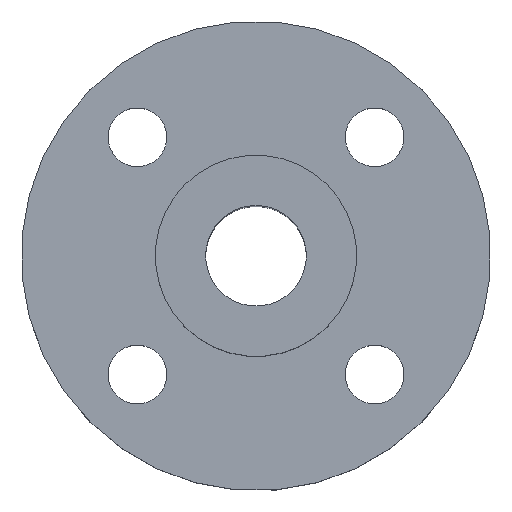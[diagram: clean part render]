
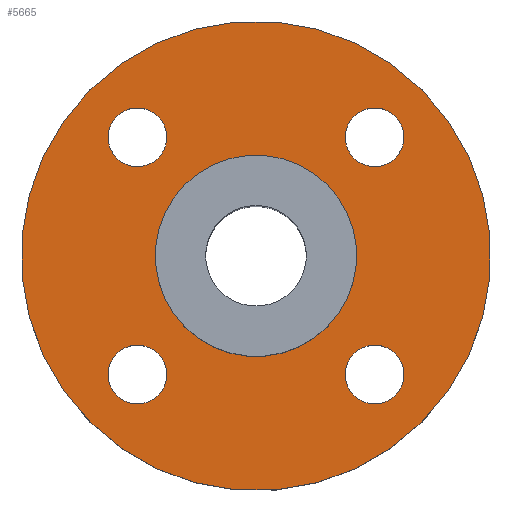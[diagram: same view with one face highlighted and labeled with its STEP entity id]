
A CAD part, top view. The second image highlights one B-rep face of the part: STEP entity #5665.
In plain terms, the highlighted planar face has unit normal (0, 0, 1).
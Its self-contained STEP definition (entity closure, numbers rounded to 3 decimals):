
#117=CIRCLE('',#6024,6.);
#121=CIRCLE('',#6032,14.);
#122=CIRCLE('',#6034,1.75);
#123=CIRCLE('',#6035,1.75);
#124=CIRCLE('',#6036,1.75);
#125=CIRCLE('',#6037,1.75);
#531=ORIENTED_EDGE('',*,*,#2159,.F.);
#532=ORIENTED_EDGE('',*,*,#2160,.F.);
#533=ORIENTED_EDGE('',*,*,#2161,.F.);
#534=ORIENTED_EDGE('',*,*,#2162,.F.);
#535=ORIENTED_EDGE('',*,*,#2154,.T.);
#536=ORIENTED_EDGE('',*,*,#2158,.T.);
#2154=EDGE_CURVE('',#2971,#2971,#117,.F.);
#2158=EDGE_CURVE('',#2975,#2975,#121,.T.);
#2159=EDGE_CURVE('',#2976,#2976,#122,.T.);
#2160=EDGE_CURVE('',#2977,#2977,#123,.T.);
#2161=EDGE_CURVE('',#2978,#2978,#124,.T.);
#2162=EDGE_CURVE('',#2979,#2979,#125,.T.);
#2971=VERTEX_POINT('',#8926);
#2975=VERTEX_POINT('',#8938);
#2976=VERTEX_POINT('',#8941);
#2977=VERTEX_POINT('',#8943);
#2978=VERTEX_POINT('',#8945);
#2979=VERTEX_POINT('',#8947);
#4643=EDGE_LOOP('',(#531));
#4644=EDGE_LOOP('',(#532));
#4645=EDGE_LOOP('',(#533));
#4646=EDGE_LOOP('',(#534));
#4647=EDGE_LOOP('',(#535));
#4648=EDGE_LOOP('',(#536));
#5054=FACE_BOUND('',#4643,.T.);
#5055=FACE_BOUND('',#4644,.T.);
#5056=FACE_BOUND('',#4645,.T.);
#5057=FACE_BOUND('',#4646,.T.);
#5058=FACE_BOUND('',#4647,.T.);
#5059=FACE_BOUND('',#4648,.T.);
#5408=PLANE('',#6033);
#5665=ADVANCED_FACE('',(#5054,#5055,#5056,#5057,#5058,#5059),#5408,.T.);
#6024=AXIS2_PLACEMENT_3D('',#8925,#6536,#6537);
#6032=AXIS2_PLACEMENT_3D('',#8937,#6552,#6553);
#6033=AXIS2_PLACEMENT_3D('',#8939,#6554,#6555);
#6034=AXIS2_PLACEMENT_3D('',#8940,#6556,#6557);
#6035=AXIS2_PLACEMENT_3D('',#8942,#6558,#6559);
#6036=AXIS2_PLACEMENT_3D('',#8944,#6560,#6561);
#6037=AXIS2_PLACEMENT_3D('',#8946,#6562,#6563);
#6536=DIRECTION('',(0.,0.,1.));
#6537=DIRECTION('',(0.707,-0.707,0.));
#6552=DIRECTION('',(0.,0.,1.));
#6553=DIRECTION('',(0.707,-0.707,0.));
#6554=DIRECTION('',(0.,0.,1.));
#6555=DIRECTION('',(0.707,-0.707,0.));
#6556=DIRECTION('',(0.,0.,1.));
#6557=DIRECTION('',(0.707,-0.707,0.));
#6558=DIRECTION('',(0.,0.,1.));
#6559=DIRECTION('',(0.707,-0.707,0.));
#6560=DIRECTION('',(0.,0.,1.));
#6561=DIRECTION('',(0.707,-0.707,0.));
#6562=DIRECTION('',(0.,0.,1.));
#6563=DIRECTION('',(0.707,-0.707,0.));
#8925=CARTESIAN_POINT('',(0.,0.,0.));
#8926=CARTESIAN_POINT('',(4.243,-4.243,0.));
#8937=CARTESIAN_POINT('',(0.,0.,0.));
#8938=CARTESIAN_POINT('',(9.899,-9.899,0.));
#8939=CARTESIAN_POINT('',(0.,0.,0.));
#8940=CARTESIAN_POINT('',(7.071,7.071,0.));
#8941=CARTESIAN_POINT('',(8.309,5.834,0.));
#8942=CARTESIAN_POINT('',(-7.071,7.071,0.));
#8943=CARTESIAN_POINT('',(-5.834,5.834,0.));
#8944=CARTESIAN_POINT('',(-7.071,-7.071,0.));
#8945=CARTESIAN_POINT('',(-5.834,-8.309,0.));
#8946=CARTESIAN_POINT('',(7.071,-7.071,0.));
#8947=CARTESIAN_POINT('',(8.309,-8.309,0.));
